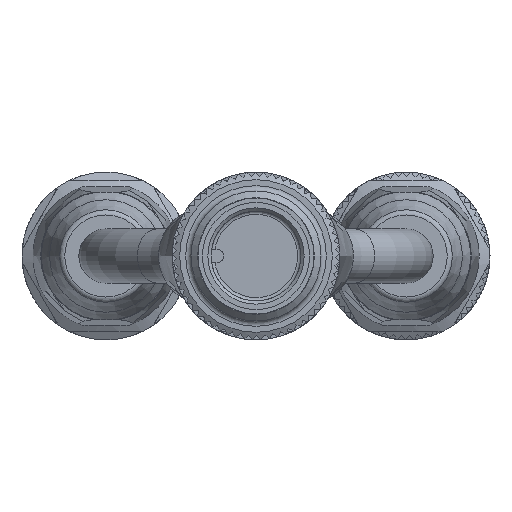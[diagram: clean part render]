
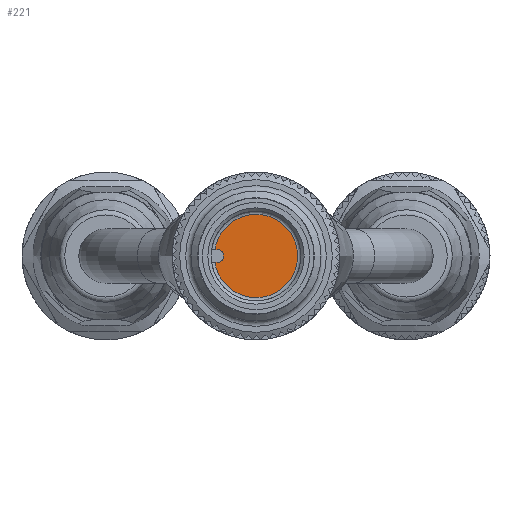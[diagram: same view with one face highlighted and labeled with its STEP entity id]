
A CAD part, left-side view. The second image highlights one B-rep face of the part: STEP entity #221.
In plain terms, the highlighted planar face has unit normal (-1, 0, 0).
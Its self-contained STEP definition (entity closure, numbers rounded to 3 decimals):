
#221 = ADVANCED_FACE( '', ( #942 ), #943, .F. );
#942 = FACE_OUTER_BOUND( '', #2496, .T. );
#943 = PLANE( '', #2497 );
#2496 = EDGE_LOOP( '', ( #4122, #4123, #4124, #4125 ) );
#2497 = AXIS2_PLACEMENT_3D( '', #4126, #4127, #4128 );
#4122 = ORIENTED_EDGE( '', *, *, #9288, .F. );
#4123 = ORIENTED_EDGE( '', *, *, #9270, .F. );
#4124 = ORIENTED_EDGE( '', *, *, #9267, .F. );
#4125 = ORIENTED_EDGE( '', *, *, #9263, .F. );
#4126 = CARTESIAN_POINT( '', ( -6., 0., 0. ) );
#4127 = DIRECTION( '', ( 1., 0., 0. ) );
#4128 = DIRECTION( '', ( 0., 0., -1. ) );
#9263 = EDGE_CURVE( '', #10845, #10847, #10848, .T. );
#9267 = EDGE_CURVE( '', #10847, #10854, #10855, .F. );
#9270 = EDGE_CURVE( '', #10854, #10859, #10860, .T. );
#9288 = EDGE_CURVE( '', #10859, #10845, #10892, .T. );
#10845 = VERTEX_POINT( '', #13429 );
#10847 = VERTEX_POINT( '', #13436 );
#10848 = LINE( '', #13437, #13438 );
#10854 = VERTEX_POINT( '', #13447 );
#10855 = CIRCLE( '', #13448, 0.6 );
#10859 = VERTEX_POINT( '', #13453 );
#10860 = LINE( '', #13454, #13455 );
#10892 = CIRCLE( '', #13523, 3.85 );
#13429 = CARTESIAN_POINT( '', ( -6., 0.6, 3.803 ) );
#13436 = CARTESIAN_POINT( '', ( -6., 0.6, 3.6 ) );
#13437 = CARTESIAN_POINT( '', ( -6., 0.6, 0. ) );
#13438 = VECTOR( '', #18267, 1000. );
#13447 = CARTESIAN_POINT( '', ( -6., -0.6, 3.6 ) );
#13448 = AXIS2_PLACEMENT_3D( '', #18271, #18272, #18273 );
#13453 = CARTESIAN_POINT( '', ( -6., -0.6, 3.803 ) );
#13454 = CARTESIAN_POINT( '', ( -6., -0.6, 0. ) );
#13455 = VECTOR( '', #18278, 1000. );
#13523 = AXIS2_PLACEMENT_3D( '', #18303, #18304, #18305 );
#18267 = DIRECTION( '', ( 0., 0., -1. ) );
#18271 = CARTESIAN_POINT( '', ( -6., 0., 3.6 ) );
#18272 = DIRECTION( '', ( 1., 0., 0. ) );
#18273 = DIRECTION( '', ( 0., 0., -1. ) );
#18278 = DIRECTION( '', ( 0., 0., 1. ) );
#18303 = CARTESIAN_POINT( '', ( -6., 0., 0. ) );
#18304 = DIRECTION( '', ( 1., 0., 0. ) );
#18305 = DIRECTION( '', ( 0., 0., -1. ) );
